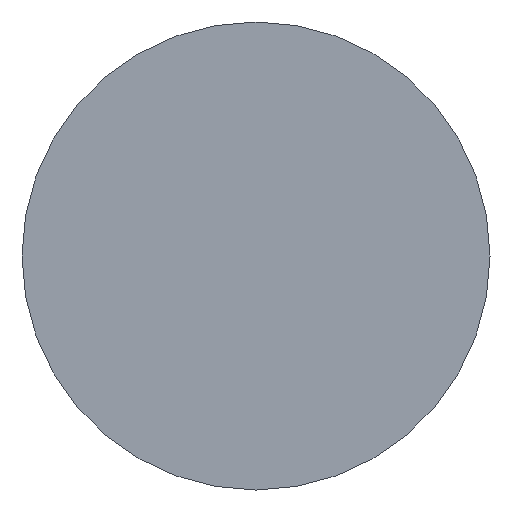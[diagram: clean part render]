
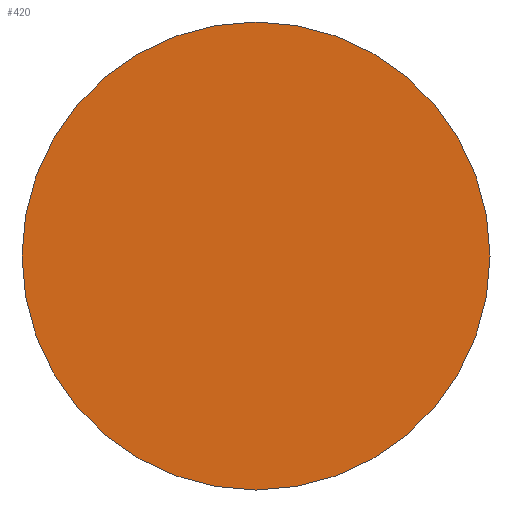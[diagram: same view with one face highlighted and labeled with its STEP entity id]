
A CAD part, front view. The second image highlights one B-rep face of the part: STEP entity #420.
In plain terms, the highlighted planar face has unit normal (0, -1, 0).
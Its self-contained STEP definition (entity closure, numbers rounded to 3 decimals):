
#341=CARTESIAN_POINT('',(0.,-64.,362.));
#342=DIRECTION('',(0.,-1.,0.));
#343=DIRECTION('',(1.,0.,0.));
#344=AXIS2_PLACEMENT_3D('',#341,#342,#343);
#349=CARTESIAN_POINT('',(0.,-64.,362.));
#350=DIRECTION('',(0.,-1.,0.));
#351=DIRECTION('',(-1.,0.,0.));
#352=AXIS2_PLACEMENT_3D('',#349,#350,#351);
#374=CARTESIAN_POINT('',(-2.5,-64.,362.));
#376=VERTEX_POINT('',#374);
#377=CARTESIAN_POINT('',(2.5,-64.,362.));
#378=VERTEX_POINT('',#377);
#411=CARTESIAN_POINT('',(0.,-64.,362.));
#412=DIRECTION('',(0.,-1.,0.));
#413=DIRECTION('',(1.,0.,0.));
#414=AXIS2_PLACEMENT_3D('',#411,#412,#413);
#415=PLANE('',#414);
#416=ORIENTED_EDGE('',*,*,#392,.F.);
#417=ORIENTED_EDGE('',*,*,#403,.F.);
#418=EDGE_LOOP('',(#416,#417));
#419=FACE_OUTER_BOUND('',#418,.F.);
#345=CIRCLE('',#344,2.5);
#353=CIRCLE('',#352,2.5);
#392=EDGE_CURVE('',#378,#376,#345,.T.);
#403=EDGE_CURVE('',#376,#378,#353,.T.);
#420=ADVANCED_FACE('',(#419),#415,.T.);
